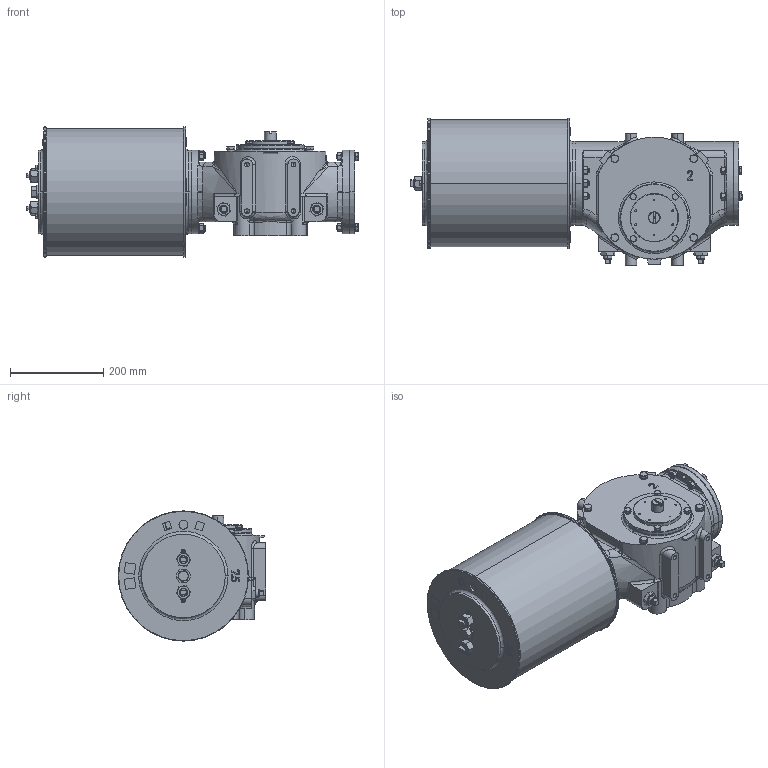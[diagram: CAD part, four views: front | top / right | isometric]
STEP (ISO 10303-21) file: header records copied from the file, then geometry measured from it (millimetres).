
FILE_DESCRIPTION (( 'STEP AP203' ), '1' );
FILE_NAME ('VTS2-250.STEP', '2023-01-01T08:38:56', ( '' ), ( '' ), 'SwSTEP 2.0', 'SolidWorks 2020', '' );
FILE_SCHEMA (( 'CONFIG_CONTROL_DESIGN' ));
Length unit declared in the file: millimetre
Products named in the file (1): VTS2-250
Bounding box: 713.58 x 317 x 280 mm (x, y, z)
Volume: 30018078 mm3; surface area: 937237.7 mm2
Topology: 3 solids, 5 shells, 1512 faces, 3847 edges, 2431 vertices
Faces by surface type: plane 616, cylinder 440, cone 300, bspline 156
Entity records: 59831 total; most frequent: CARTESIAN_POINT 24557, ORIENTED_EDGE 7622, DIRECTION 7078, EDGE_CURVE 3811, AXIS2_PLACEMENT_3D 2778, VERTEX_POINT 2431, EDGE_LOOP 1682, VECTOR 1522
